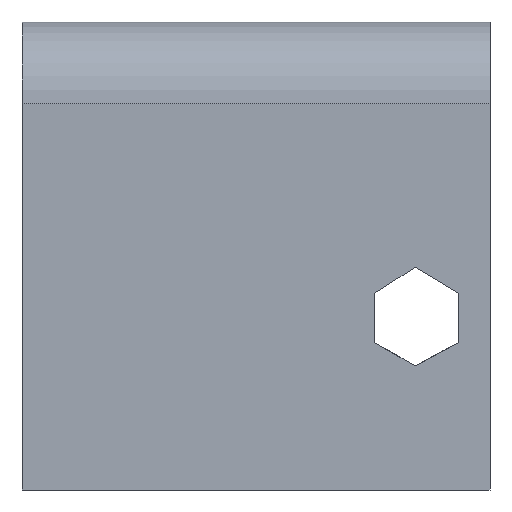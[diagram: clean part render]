
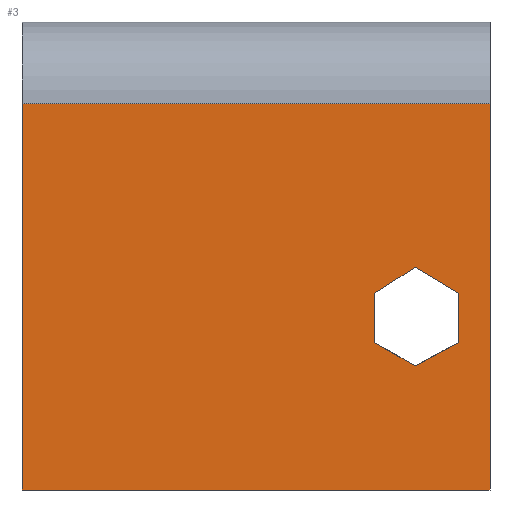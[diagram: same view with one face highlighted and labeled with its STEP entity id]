
A CAD part, left-side view. The second image highlights one B-rep face of the part: STEP entity #3.
In plain terms, the highlighted planar face has unit normal (-1, 0, 0).
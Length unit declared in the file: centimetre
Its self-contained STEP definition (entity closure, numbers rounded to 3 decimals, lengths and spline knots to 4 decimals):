
#3 = ADVANCED_FACE ( 'NONE', ( #667, #737 ), #195, .F. ) ;
#16 = VECTOR ( 'NONE', #275, 100. ) ;
#27 = VECTOR ( 'NONE', #396, 100. ) ;
#28 = DIRECTION ( 'NONE',  ( 0., -0.841, 0.54 ) ) ;
#32 = CARTESIAN_POINT ( 'NONE',  ( 0., 1000., 1000. ) ) ;
#40 = CARTESIAN_POINT ( 'NONE',  ( 0., 0., 825.3127 ) ) ;
#46 = EDGE_CURVE ( 'NONE', #754, #970, #838, .T. ) ;
#52 = DIRECTION ( 'NONE',  ( 0., -1., 0. ) ) ;
#54 = LINE ( 'NONE', #208, #16 ) ;
#68 = VERTEX_POINT ( 'NONE', #766 ) ;
#78 = EDGE_LOOP ( 'NONE', ( #635, #712, #899, #226, #236, #646 ) ) ;
#79 = CARTESIAN_POINT ( 'NONE',  ( 0., 0., 1000. ) ) ;
#97 = VERTEX_POINT ( 'NONE', #749 ) ;
#106 = LINE ( 'NONE', #277, #157 ) ;
#115 = VECTOR ( 'NONE', #52, 100. ) ;
#140 = VECTOR ( 'NONE', #464, 100. ) ;
#157 = VECTOR ( 'NONE', #497, 100. ) ;
#171 = VERTEX_POINT ( 'NONE', #631 ) ;
#178 = EDGE_CURVE ( 'NONE', #386, #947, #694, .T. ) ;
#195 = PLANE ( 'NONE',  #973 ) ;
#208 = CARTESIAN_POINT ( 'NONE',  ( 0., 67.0335, 314.9935 ) ) ;
#218 = EDGE_CURVE ( 'NONE', #465, #171, #945, .T. ) ;
#226 = ORIENTED_EDGE ( 'NONE', *, *, #471, .T. ) ;
#236 = ORIENTED_EDGE ( 'NONE', *, *, #320, .T. ) ;
#240 = CARTESIAN_POINT ( 'NONE',  ( 0., 67.0335, 420.3895 ) ) ;
#256 = EDGE_CURVE ( 'NONE', #754, #97, #468, .T. ) ;
#275 = DIRECTION ( 'NONE',  ( 0., 0.881, -0.473 ) ) ;
#277 = CARTESIAN_POINT ( 'NONE',  ( 0., 159.9286, 475.8926 ) ) ;
#299 = VECTOR ( 'NONE', #342, 100. ) ;
#306 = DIRECTION ( 'NONE',  ( 0., 0.866, 0.5 ) ) ;
#320 = EDGE_CURVE ( 'NONE', #68, #386, #106, .T. ) ;
#321 = DIRECTION ( 'NONE',  ( 0., 0., -1. ) ) ;
#331 = ORIENTED_EDGE ( 'NONE', *, *, #829, .T. ) ;
#342 = DIRECTION ( 'NONE',  ( 0., 0., -1. ) ) ;
#343 = DIRECTION ( 'NONE',  ( 1., 0., 0. ) ) ;
#348 = VECTOR ( 'NONE', #590, 100. ) ;
#362 = DIRECTION ( 'NONE',  ( 0., 0., -1. ) ) ;
#371 = LINE ( 'NONE', #680, #747 ) ;
#375 = CARTESIAN_POINT ( 'NONE',  ( 0., 1000., 825.3127 ) ) ;
#386 = VERTEX_POINT ( 'NONE', #240 ) ;
#396 = DIRECTION ( 'NONE',  ( 0., 0., -1. ) ) ;
#400 = EDGE_LOOP ( 'NONE', ( #771, #552, #331, #808 ) ) ;
#464 = DIRECTION ( 'NONE',  ( 0., 0., 1. ) ) ;
#465 = VERTEX_POINT ( 'NONE', #663 ) ;
#468 = LINE ( 'NONE', #79, #27 ) ;
#471 = EDGE_CURVE ( 'NONE', #171, #68, #974, .T. ) ;
#473 = VECTOR ( 'NONE', #28, 100. ) ;
#494 = VERTEX_POINT ( 'NONE', #510 ) ;
#497 = DIRECTION ( 'NONE',  ( 0., -0.858, -0.513 ) ) ;
#510 = CARTESIAN_POINT ( 'NONE',  ( 0., 1000., 0. ) ) ;
#512 = CARTESIAN_POINT ( 'NONE',  ( 0., 159.9286, 265.1007 ) ) ;
#535 = LINE ( 'NONE', #689, #115 ) ;
#552 = ORIENTED_EDGE ( 'NONE', *, *, #46, .T. ) ;
#559 = VECTOR ( 'NONE', #321, 100. ) ;
#590 = DIRECTION ( 'NONE',  ( 0., 1., 0. ) ) ;
#631 = CARTESIAN_POINT ( 'NONE',  ( 0., 246.3456, 420.3895 ) ) ;
#635 = ORIENTED_EDGE ( 'NONE', *, *, #658, .T. ) ;
#646 = ORIENTED_EDGE ( 'NONE', *, *, #178, .T. ) ;
#658 = EDGE_CURVE ( 'NONE', #947, #735, #54, .T. ) ;
#663 = CARTESIAN_POINT ( 'NONE',  ( 0., 246.3456, 314.9935 ) ) ;
#667 = FACE_BOUND ( 'NONE', #78, .T. ) ;
#680 = CARTESIAN_POINT ( 'NONE',  ( 0., 159.9286, 265.1007 ) ) ;
#689 = CARTESIAN_POINT ( 'NONE',  ( 0., 1000., 0. ) ) ;
#694 = LINE ( 'NONE', #942, #559 ) ;
#712 = ORIENTED_EDGE ( 'NONE', *, *, #860, .T. ) ;
#724 = LINE ( 'NONE', #32, #299 ) ;
#735 = VERTEX_POINT ( 'NONE', #512 ) ;
#737 = FACE_OUTER_BOUND ( 'NONE', #400, .T. ) ;
#743 = CARTESIAN_POINT ( 'NONE',  ( 0., 1000., 1000. ) ) ;
#747 = VECTOR ( 'NONE', #306, 100. ) ;
#749 = CARTESIAN_POINT ( 'NONE',  ( 0., 0., 0. ) ) ;
#754 = VERTEX_POINT ( 'NONE', #40 ) ;
#766 = CARTESIAN_POINT ( 'NONE',  ( 0., 159.9286, 475.8926 ) ) ;
#771 = ORIENTED_EDGE ( 'NONE', *, *, #256, .F. ) ;
#808 = ORIENTED_EDGE ( 'NONE', *, *, #854, .T. ) ;
#829 = EDGE_CURVE ( 'NONE', #970, #494, #724, .T. ) ;
#838 = LINE ( 'NONE', #375, #348 ) ;
#845 = CARTESIAN_POINT ( 'NONE',  ( 0., 67.0335, 314.9935 ) ) ;
#848 = CARTESIAN_POINT ( 'NONE',  ( 0., 1000., 825.3127 ) ) ;
#854 = EDGE_CURVE ( 'NONE', #494, #97, #535, .T. ) ;
#860 = EDGE_CURVE ( 'NONE', #735, #465, #371, .T. ) ;
#864 = CARTESIAN_POINT ( 'NONE',  ( 0., 246.3456, 314.9935 ) ) ;
#896 = CARTESIAN_POINT ( 'NONE',  ( 0., 246.3456, 420.3895 ) ) ;
#899 = ORIENTED_EDGE ( 'NONE', *, *, #218, .T. ) ;
#942 = CARTESIAN_POINT ( 'NONE',  ( 0., 67.0335, 420.3895 ) ) ;
#945 = LINE ( 'NONE', #864, #140 ) ;
#947 = VERTEX_POINT ( 'NONE', #845 ) ;
#970 = VERTEX_POINT ( 'NONE', #848 ) ;
#973 = AXIS2_PLACEMENT_3D ( 'NONE', #743, #343, #362 ) ;
#974 = LINE ( 'NONE', #896, #473 ) ;
